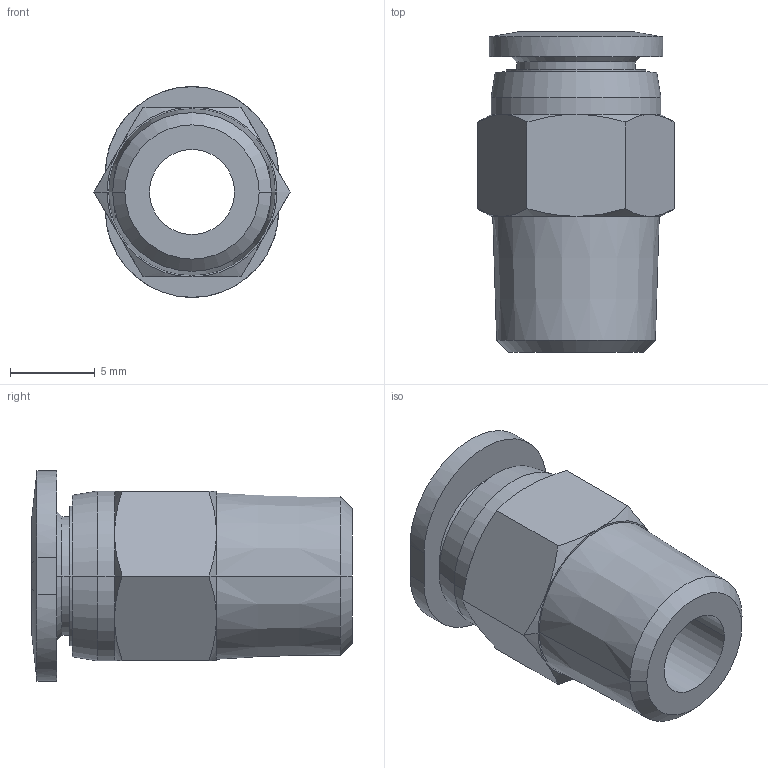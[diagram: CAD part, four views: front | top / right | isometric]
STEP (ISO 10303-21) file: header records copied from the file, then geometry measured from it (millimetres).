
FILE_DESCRIPTION (( 'STEP AP203' ), '1' );
FILE_NAME ('FMH06-01.STEP', '2020-07-07T10:51:01', ( '' ), ( '' ), 'SwSTEP 2.0', 'SolidWorks 2019', '' );
FILE_SCHEMA (( 'CONFIG_CONTROL_DESIGN' ));
Length unit declared in the file: millimetre
Products named in the file (1): FMH06-01
Bounding box: 11.55 x 18.88 x 12.4 mm (x, y, z)
Volume: 949.5 mm3; surface area: 1158.3 mm2
Topology: 1 solids, 1 shells, 55 faces, 119 edges, 71 vertices
Faces by surface type: cone 22, plane 15, cylinder 12, bspline 4, torus 2
Entity records: 1798 total; most frequent: CARTESIAN_POINT 580, DIRECTION 242, ORIENTED_EDGE 238, EDGE_CURVE 119, AXIS2_PLACEMENT_3D 104, VERTEX_POINT 71, EDGE_LOOP 62, ADVANCED_FACE 55
